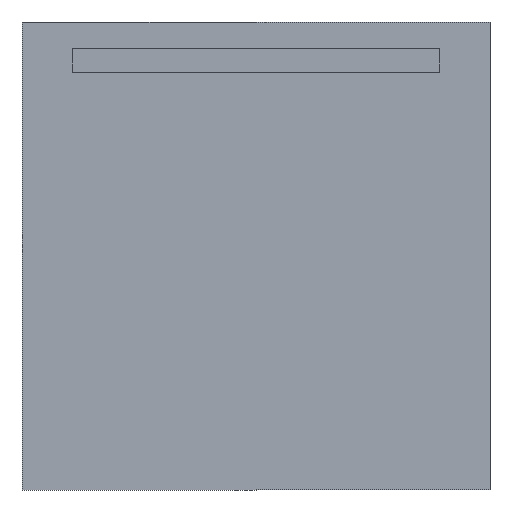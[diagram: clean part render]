
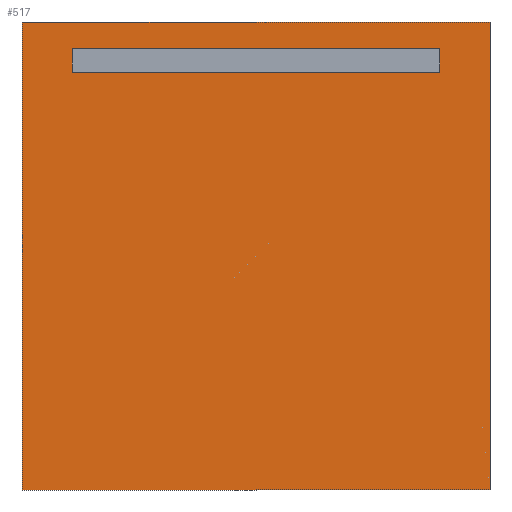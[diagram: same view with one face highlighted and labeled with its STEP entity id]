
A CAD part, front view. The second image highlights one B-rep face of the part: STEP entity #517.
In plain terms, the highlighted planar face has unit normal (0, -1, 0).
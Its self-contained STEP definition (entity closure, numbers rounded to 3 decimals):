
#47=FACE_BOUND('',#92,.T.);
#62=FACE_OUTER_BOUND('',#91,.T.);
#91=EDGE_LOOP('',(#359,#360,#361,#362));
#92=EDGE_LOOP('',(#363,#364,#365,#366));
#115=LINE('',#766,#159);
#119=LINE('',#774,#163);
#122=LINE('',#780,#166);
#125=LINE('',#785,#169);
#127=LINE('',#791,#171);
#131=LINE('',#799,#175);
#134=LINE('',#805,#178);
#137=LINE('',#810,#181);
#159=VECTOR('',#614,10.);
#163=VECTOR('',#620,10.);
#166=VECTOR('',#625,10.);
#169=VECTOR('',#630,10.);
#171=VECTOR('',#636,10.);
#175=VECTOR('',#642,10.);
#178=VECTOR('',#647,10.);
#181=VECTOR('',#652,10.);
#203=VERTEX_POINT('',#764);
#204=VERTEX_POINT('',#765);
#207=VERTEX_POINT('',#773);
#209=VERTEX_POINT('',#779);
#211=VERTEX_POINT('',#789);
#212=VERTEX_POINT('',#790);
#215=VERTEX_POINT('',#798);
#217=VERTEX_POINT('',#804);
#251=EDGE_CURVE('',#203,#204,#115,.T.);
#255=EDGE_CURVE('',#207,#203,#119,.T.);
#258=EDGE_CURVE('',#209,#207,#122,.T.);
#261=EDGE_CURVE('',#204,#209,#125,.T.);
#263=EDGE_CURVE('',#211,#212,#127,.T.);
#267=EDGE_CURVE('',#215,#211,#131,.T.);
#270=EDGE_CURVE('',#217,#215,#134,.T.);
#273=EDGE_CURVE('',#212,#217,#137,.T.);
#359=ORIENTED_EDGE('',*,*,#273,.F.);
#360=ORIENTED_EDGE('',*,*,#263,.F.);
#361=ORIENTED_EDGE('',*,*,#267,.F.);
#362=ORIENTED_EDGE('',*,*,#270,.F.);
#363=ORIENTED_EDGE('',*,*,#251,.T.);
#364=ORIENTED_EDGE('',*,*,#261,.T.);
#365=ORIENTED_EDGE('',*,*,#258,.T.);
#366=ORIENTED_EDGE('',*,*,#255,.T.);
#465=PLANE('',#567);
#517=ADVANCED_FACE('',(#62,#47),#465,.F.);
#567=AXIS2_PLACEMENT_3D('',#813,#656,#657);
#614=DIRECTION('',(0.,0.,-1.));
#620=DIRECTION('',(1.,0.,0.));
#625=DIRECTION('',(0.,0.,1.));
#630=DIRECTION('',(-1.,0.,0.));
#636=DIRECTION('',(0.,0.,1.));
#642=DIRECTION('',(-1.,0.,0.));
#647=DIRECTION('',(0.,0.,-1.));
#652=DIRECTION('',(1.,0.,0.));
#656=DIRECTION('center_axis',(0.,1.,0.));
#657=DIRECTION('ref_axis',(0.,0.,1.));
#764=CARTESIAN_POINT('',(275.,-26.,660.));
#765=CARTESIAN_POINT('',(275.,-26.,625.));
#766=CARTESIAN_POINT('',(275.,-26.,505.));
#773=CARTESIAN_POINT('',(-275.,-26.,660.));
#774=CARTESIAN_POINT('',(-137.5,-26.,660.));
#779=CARTESIAN_POINT('',(-275.,-26.,625.));
#780=CARTESIAN_POINT('',(-275.,-26.,487.5));
#785=CARTESIAN_POINT('',(137.5,-26.,625.));
#789=CARTESIAN_POINT('',(-350.,-26.,0.));
#790=CARTESIAN_POINT('',(-350.,-26.,700.));
#791=CARTESIAN_POINT('',(-350.,-26.,0.));
#798=CARTESIAN_POINT('',(350.,-26.,0.));
#799=CARTESIAN_POINT('',(350.,-26.,0.));
#804=CARTESIAN_POINT('',(350.,-26.,700.));
#805=CARTESIAN_POINT('',(350.,-26.,700.));
#810=CARTESIAN_POINT('',(-350.,-26.,700.));
#813=CARTESIAN_POINT('Origin',(0.,-26.,350.));
